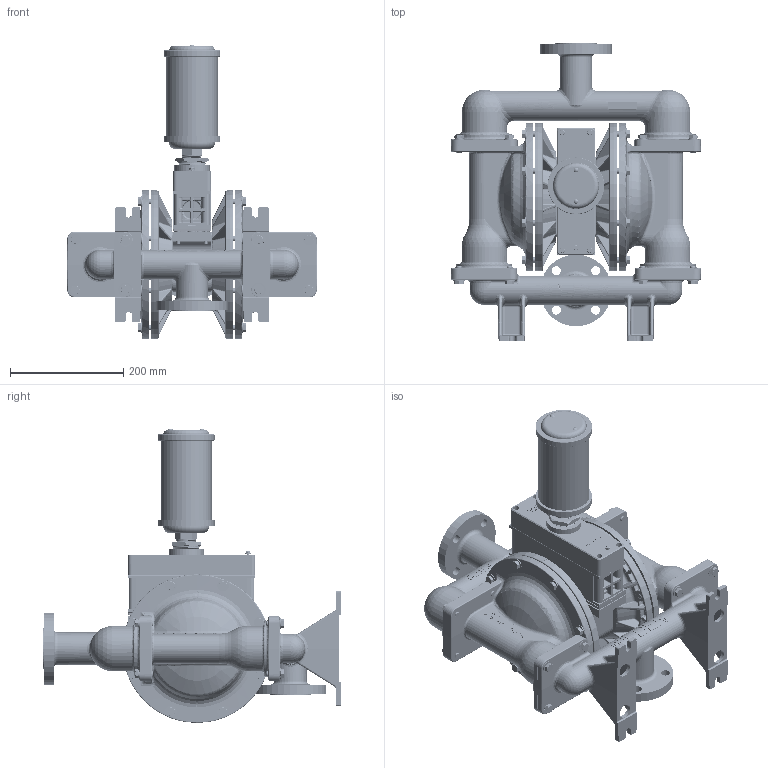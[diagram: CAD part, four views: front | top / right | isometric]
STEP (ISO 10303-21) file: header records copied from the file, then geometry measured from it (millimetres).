
FILE_DESCRIPTION((''),'2;1');
FILE_NAME('PS400_ADV_SS_DROP_IN__SW0001','2014-05-13T',('mike.hiatt'),(''),'PRO/ENGINEER BY PARAMETRIC TECHNOLOGY CORPORATION, 2011180','PRO/ENGINEER BY PARAMETRIC TECHNOLOGY CORPORATION, 2011180','');
FILE_SCHEMA(('CONFIG_CONTROL_DESIGN'));
Length unit declared in the file: inch
Products named in the file (1): PS400_ADV_SS_DROP_IN__SW0001
Bounding box: 443.47 x 526.03 x 521.16 mm (x, y, z)
Volume: 8031702.4 mm3; surface area: 1863278.9 mm2
Topology: 6 solids, 12 shells, 17484 faces, 45978 edges, 29009 vertices
Faces by surface type: plane 10508, bspline 2377, cylinder 1873, torus 1197, cone 1029, sphere 430, extrusion 70
Entity records: 986077 total; most frequent: CARTESIAN_POINT 573508, ORIENTED_EDGE 91496, DIRECTION 77344, EDGE_CURVE 45748, VECTOR 29640, LINE 29570, VERTEX_POINT 29009, AXIS2_PLACEMENT_3D 23852
